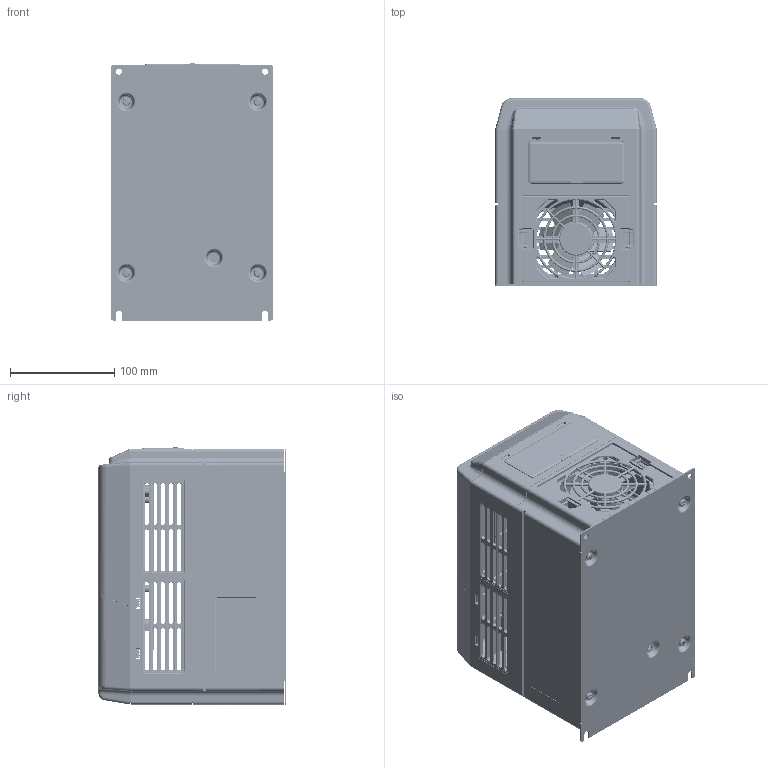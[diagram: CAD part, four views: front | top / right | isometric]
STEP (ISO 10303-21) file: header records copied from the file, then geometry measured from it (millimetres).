
FILE_DESCRIPTION((''),'2;1');
FILE_NAME('APPERANCE_ASM','2024-07-10T09:44:11',('dylvxj'),(''),'CREO PARAMETRIC BY PTC INC, 2020044','CREO PARAMETRIC BY PTC INC, 2020044','');
FILE_SCHEMA(('CONFIG_CONTROL_DESIGN','SHAPE_APPEARANCE_LAYERS_GROUPS'));
Products named in the file (17): 8ZTD_022_342; M4X6TLS-1228; 8ZTD_022_342_ASM; 5ZTD_024_715; FS-1228; 8ZTD_325_150; 8ZTD_355_068; M3QJ-1228_2_1_1_1; M3X9QJ-1228_2_1_1_1; 5ZTD_355_151_ASM; 8ZTD_312_043; 8ZTD_312_044; 8ZTD_325_149; 8ZTD_325_160; M4X10LD-1228; XJT-1228; APPERANCE_ASM
Assembly tree (36 placements, depth 3):
  APPERANCE_ASM
    8ZTD_022_342_ASM
      8ZTD_022_342
      M4X6TLS-1228  x12
    5ZTD_024_715
    FS-1228
    8ZTD_325_150
    5ZTD_355_151_ASM
      8ZTD_355_068
      M3QJ-1228_2_1_1_1  x2
      M3X9QJ-1228_2_1_1_1
    8ZTD_312_043
    8ZTD_312_044
    8ZTD_325_149
    8ZTD_325_160
    M4X10LD-1228  x7
    XJT-1228  x3
Bounding box: 155 x 180.3 x 246.51 mm (x, y, z)
Volume: 690925.6 mm3; surface area: 693244.6 mm2
Topology: 48 solids, 50 shells, 7676 faces, 20764 edges, 13296 vertices
Faces by surface type: plane 3661, cylinder 2744, torus 717, bspline 413, cone 116, sphere 25
Entity records: 270881 total; most frequent: CARTESIAN_POINT 67017, ORIENTED_EDGE 33338, DIRECTION 30878, EDGE_CURVE 16669, PRESENTATION_STYLE_ASSIGNMENT 14405, STYLED_ITEM 14183, CURVE_STYLE 12995, VERTEX_POINT 10593
